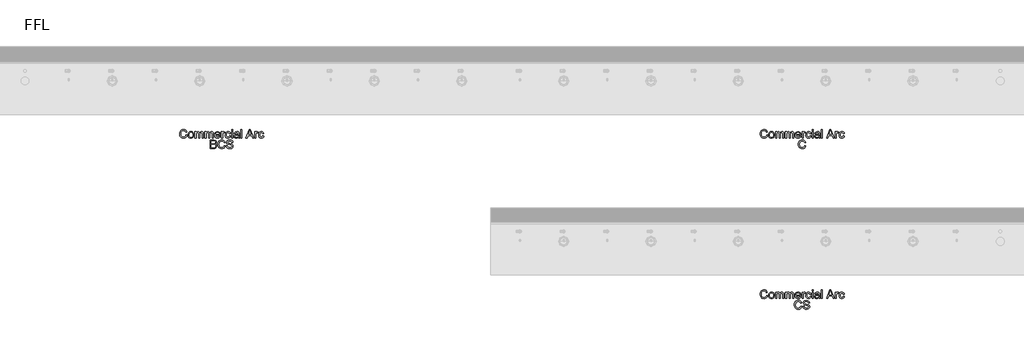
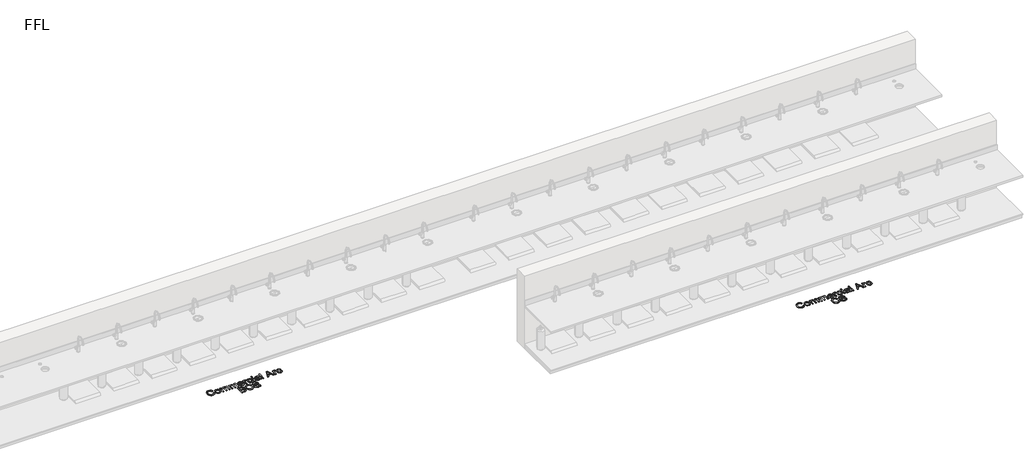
# One storey, part 7 of 10: 3 proxies.
"""IFC4 building model written with IfcOpenShell, lengths in millimetres."""

import ifcopenshell
import ifcopenshell.guid

model = None  # the IFC model being written
_history = None  # IfcOwnerHistory: only IFC2X3 demands one
_inside = {}  # id of a spatial element -> (the spatial element, [elements in it])
_under = {}  # id of a project, library or spatial element -> (it, [spatial elements below it])
_declared = {}  # id of a project -> (the project, [libraries it declares])
_typed = {}  # id of a type object -> (the type object, [elements of that type])
_made_of = {}  # id of a material, layer set ... -> (it, [elements and type objects made of it])


def new_model(schema):
    """Start an empty IFC model of exactly this schema.

    Asked for "IFC4X3", IfcOpenShell would pick the latest addendum, in which some entities
    have other attributes; the version numbers below select the first issue.
    IFC2X3 requires an IfcOwnerHistory on every rooted entity: one is made here for all.
    """
    global model, _history
    if schema == "IFC4X3":
        model = ifcopenshell.file(schema_version=(4, 3, 0, 0))
    else:
        model = ifcopenshell.file(schema=schema)
    _inside.clear()
    _under.clear()
    _declared.clear()
    _typed.clear()
    _made_of.clear()
    _history = None
    if model.schema == "IFC2X3":
        org = make("IfcOrganization", Name="unknown")
        user = make(
            "IfcPersonAndOrganization",
            ThePerson=make("IfcPerson", FamilyName="unknown"),
            TheOrganization=org,
        )
        app = make(
            "IfcApplication",
            ApplicationDeveloper=org,
            Version="unknown",
            ApplicationFullName="unknown",
            ApplicationIdentifier="unknown",
        )
        _history = make(
            "IfcOwnerHistory",
            OwningUser=user,
            OwningApplication=app,
            ChangeAction="ADDED",
            CreationDate=0,
        )
    return model


def make(cls, **values):
    """One entity of the class cls with the attributes given. An attribute that is None is left unset."""
    return model.create_entity(
        cls, **{name: value for name, value in values.items() if value is not None}
    )


def rooted(cls, **values):
    """An entity with a GlobalId (a new one), such as an element, a storey or a relation."""
    return make(cls, GlobalId=ifcopenshell.guid.new(), OwnerHistory=_history, **values)


def si_unit(unit_type, name, prefix=None):
    """IfcSIUnit, for example si_unit("LENGTHUNIT", "METRE", prefix="MILLI")."""
    return make("IfcSIUnit", UnitType=unit_type, Prefix=prefix, Name=name)


def assignment(units):
    """IfcUnitAssignment: the units of a project."""
    return None if units is None else make("IfcUnitAssignment", Units=units)


def point(xyz):
    """IfcCartesianPoint."""
    return None if xyz is None else make("IfcCartesianPoint", Coordinates=xyz)


def direction(xyz):
    """IfcDirection."""
    return None if xyz is None else make("IfcDirection", DirectionRatios=xyz)


def frame(location, z_axis=None, x_axis=None):
    """IfcAxis2Placement3D, a coordinate frame: its origin and axes. An axis left out is left unset."""
    return make(
        "IfcAxis2Placement3D",
        Location=point(location),
        Axis=direction(z_axis),
        RefDirection=direction(x_axis),
    )


def origin():
    """The frame at (0, 0, 0) with its axes left unset."""
    return frame((0.0, 0.0, 0.0))


def origin_with_axes():
    """The frame at (0, 0, 0) with the z axis (0, 0, 1) and the x axis (1, 0, 0) written out."""
    return frame((0.0, 0.0, 0.0), z_axis=(0.0, 0.0, 1.0), x_axis=(1.0, 0.0, 0.0))


def place(relative_to, where):
    """IfcLocalPlacement: puts the frame where relative to a parent placement (None: the world)."""
    return make(
        "IfcLocalPlacement", PlacementRelTo=relative_to, RelativePlacement=where
    )


def context(
    kind, dimensions, precision=None, world=None, true_north=None, identifier=None
):
    """IfcGeometricRepresentationContext, for example the 3D "Model" context."""
    return make(
        "IfcGeometricRepresentationContext",
        ContextIdentifier=identifier,
        ContextType=kind,
        CoordinateSpaceDimension=dimensions,
        Precision=precision,
        WorldCoordinateSystem=world,
        TrueNorth=true_north,
    )


def project(units=None, contexts=None):
    """IfcProject with its units and contexts."""
    return rooted(
        "IfcProject",
        Name="project",
        RepresentationContexts=contexts,
        UnitsInContext=assignment(units),
    )


def spatial(cls, under=None, at=None, **own):
    """A site, building, storey or space (cls), placed at a placement, below another one or the project."""
    s = rooted(cls, ObjectPlacement=at, **own)
    if under is not None:
        _under.setdefault(under.id(), (under, []))[1].append(s)
    return s


def polyline(points):
    """IfcPolyline through the points."""
    return make("IfcPolyline", Points=[point(p) for p in points])


def outline(outer, holes=None, kind="AREA"):
    """IfcArbitraryClosedProfileDef: a profile drawn as a closed curve; with holes, ...WithVoids."""
    if holes is None:
        return make("IfcArbitraryClosedProfileDef", ProfileType=kind, OuterCurve=outer)
    return make(
        "IfcArbitraryProfileDefWithVoids",
        ProfileType=kind,
        OuterCurve=outer,
        InnerCurves=holes,
    )


def extrude(swept, where, along, depth):
    """IfcExtrudedAreaSolid: the profile swept, set in the frame where, extruded along a direction by depth."""
    return make(
        "IfcExtrudedAreaSolid",
        SweptArea=swept,
        Position=where,
        ExtrudedDirection=direction(along),
        Depth=depth,
    )


def shape(context_of_items, identifier, shape_type, items):
    """IfcShapeRepresentation: the items that make up one representation, for example the "Body"."""
    return make(
        "IfcShapeRepresentation",
        ContextOfItems=context_of_items,
        RepresentationIdentifier=identifier,
        RepresentationType=shape_type,
        Items=items,
    )


def made_of(thing, what):
    """Note that an element or type object is made of a material, layer set ...; save() writes the relation."""
    if what is not None:
        _made_of.setdefault(what.id(), (what, []))[1].append(thing)
    return thing


def element(
    cls,
    number,
    at=None,
    inside=None,
    cuts=None,
    type_object=None,
    material=None,
    context=None,
    identifier="Body",
    shape_type=None,
    held_by="IfcProductDefinitionShape",
    body=None,
    shapes=None,
    **own,
):
    """One element of the class cls, such as IfcWall. Its Tag is "e" and its number.

    at: its placement. inside: the storey or other place that contains it. cuts: it is an
    opening in that element (IfcRelVoidsElement). A single representation is given by context,
    identifier, shape_type and body (its items); several are given by shapes. held_by: the class
    of the entity that holds the representations. save() writes the other relations.
    """
    e = rooted(cls, Tag="e%d" % number, ObjectPlacement=at, **own)
    if body is not None:
        shapes = [shape(context, identifier, shape_type, body)]
    if shapes is not None:
        e.Representation = make(held_by, Representations=shapes)
    if inside is not None:
        _inside.setdefault(inside.id(), (inside, []))[1].append(e)
    if cuts is not None:
        rooted(
            "IfcRelVoidsElement", RelatingBuildingElement=cuts, RelatedOpeningElement=e
        )
    if type_object is not None:
        _typed.setdefault(type_object.id(), (type_object, []))[1].append(e)
    return made_of(e, material)


def aggregate(whole, parts):
    """IfcRelAggregates: a whole, such as a stair, and the parts it consists of."""
    return rooted("IfcRelAggregates", RelatingObject=whole, RelatedObjects=parts)


def save(model, path):
    """Write the relations noted so far, then the file.

    IfcRelAggregates (storeys below a building ...), IfcRelContainedInSpatialStructure (elements
    in a storey), IfcRelDefinesByType, IfcRelAssociatesMaterial and IfcRelDeclares: one each for
    every whole, place, type object, material and project.
    """
    for whole, parts in _under.values():
        aggregate(whole, parts)
    for where, things in _inside.values():
        rooted(
            "IfcRelContainedInSpatialStructure",
            RelatedElements=things,
            RelatingStructure=where,
        )
    for kind, things in _typed.values():
        rooted("IfcRelDefinesByType", RelatedObjects=things, RelatingType=kind)
    for what, things in _made_of.values():
        rooted("IfcRelAssociatesMaterial", RelatedObjects=things, RelatingMaterial=what)
    for by, libraries in _declared.values():
        rooted("IfcRelDeclares", RelatingContext=by, RelatedDefinitions=libraries)
    model.write(path)


model = new_model("IFC4")

# Units and contexts
model_context = context("Model", 3, world=origin())
ifc_project = project(units=[si_unit("LENGTHUNIT", "METRE", prefix="MILLI")], contexts=[model_context])

# Site, building, storey
site = spatial("IfcSite", under=ifc_project)
building = spatial("IfcBuilding", under=site)
storey = spatial("IfcBuildingStorey", under=building, Name="FFL", Elevation=0.0)

# Proxies
placement = place(None, origin())
element("IfcBuildingElementProxy", 1, Name="150mm Arial", ObjectType="150mm Arial", at=placement, inside=storey, context=model_context, shape_type="SweptSolid", body=[
    extrude(outline(polyline([(-2955.1199083, -1683.6981691), (-2936.6583698, -1688.4577845), (-2945.1769996, -1709.9707052), (-2958.545389, -1725.6873518), (-2976.1054852, -1735.301234), (-2997.1992352, -1738.5058614), (-3018.6129972, -1736.0809816), (-3035.6187063, -1728.8063422), (-3048.6535621, -1716.934347), (-3058.154764, -1700.7173999), (-3063.9555453, -1681.6518951), (-3065.889139, -1661.2342268), (-3063.7031414, -1639.6987701), (-3057.1451486, -1621.1020153), (-3046.5577087, -1606.0344071), (-3032.2833698, -1595.0863903), (-3015.3542833, -1588.4202244), (-2996.8026006, -1586.1981691), (-2976.5607135, -1589.0737701), (-2959.8254371, -1597.700573), (-2947.1196078, -1611.5467268), (-2938.9660621, -1630.0803807), (-2957.4276006, -1634.4794191), (-2963.8278409, -1621.0163783), (-2972.5718313, -1611.7811018), (-2983.7677448, -1606.4400561), (-2997.5237544, -1604.6597076), (-3013.3801246, -1606.6338662), (-3026.4059659, -1612.5563422), (-3036.2902809, -1621.8051403), (-3042.7220717, -1633.7582653), (-3047.4276006, -1661.1981691), (-3041.8566871, -1693.0010537), (-3034.7352929, -1704.8775561), (-3024.5129371, -1713.3195633), (-3012.2578289, -1718.3631331), (-2999.0381775, -1720.044323), (-2983.6280212, -1717.7546595), (-2970.7869756, -1710.8856691), (-2961.0919635, -1699.5094672), (-2955.1199083, -1683.6981691)])), origin_with_axes(), (0.0, 0.0, 1.0), 5.0),
    extrude(outline(polyline([(-2918.1968313, -1681.9673999), (-2914.2034419, -1655.8165585), (-2902.2232736, -1637.4361499), (-2887.4215909, -1628.4307412), (-2869.6992352, -1625.4289383), (-2850.3047039, -1629.0842869), (-2834.8134179, -1640.0503326), (-2824.6586703, -1657.4616908), (-2821.2737544, -1680.4529768), (-2822.7701486, -1699.1038182), (-2827.2593313, -1713.3015345), (-2834.6105934, -1723.9340465), (-2844.6932256, -1731.8892749), (-2856.6688866, -1736.8517148), (-2869.6992352, -1738.5058614), (-2889.3281414, -1734.8640345), (-2904.8013986, -1723.9385537), (-2914.8479732, -1706.1621114), (-2918.1968313, -1681.9673999)]), holes=[polyline([(-2899.7352929, -1681.9313422), (-2897.5988746, -1698.6395754), (-2891.1896198, -1710.543121), (-2881.5441871, -1717.6690225), (-2869.6992352, -1720.044323), (-2857.9083698, -1717.6555008), (-2848.2809659, -1710.4890345), (-2841.8717111, -1698.4277364), (-2839.7352929, -1681.3544191), (-2841.8852328, -1665.1329648), (-2848.3350525, -1653.3916787), (-2857.975978, -1646.2657773), (-2869.6992352, -1643.8904768), (-2881.5441871, -1646.2567629), (-2891.1896198, -1653.355621), (-2897.5988746, -1665.2321234), (-2899.7352929, -1681.9313422)])]), origin_with_axes(), (0.0, 0.0, 1.0), 5.0),
    extrude(outline(polyline([(-2800.5045236, -1736.1981691), (-2800.5045236, -1627.7366307), (-2782.0429852, -1627.7366307), (-2782.0429852, -1645.5851883), (-2769.3506775, -1630.9637941), (-2751.2857736, -1625.4289383), (-2741.0183458, -1626.8396956), (-2732.7881775, -1631.0719672), (-2722.6199083, -1646.8832653), (-2708.2148602, -1630.7925201), (-2690.0237544, -1625.4289383), (-2676.1460501, -1627.6600081), (-2665.8831294, -1634.3532172), (-2659.5414828, -1645.6888542), (-2657.4276006, -1661.8472076), (-2657.4276006, -1736.1981691), (-2675.889139, -1736.1981691), (-2675.889139, -1669.7798999), (-2677.6018794, -1654.3652364), (-2683.8038025, -1646.7750922), (-2694.3506775, -1643.8904768), (-2704.3521799, -1645.7384335), (-2712.5057256, -1651.2823037), (-2717.927901, -1660.9006932), (-2719.7352929, -1674.9722076), (-2719.7352929, -1736.1981691), (-2738.1968313, -1736.1981691), (-2738.1968313, -1667.7246114), (-2742.4696679, -1649.839996), (-2748.1081895, -1645.3778566), (-2756.4780813, -1643.8904768), (-2770.1439467, -1647.856823), (-2779.2304852, -1659.4673999), (-2782.0429852, -1681.4986499), (-2782.0429852, -1736.1981691), (-2800.5045236, -1736.1981691)])), origin_with_axes(), (0.0, 0.0, 1.0), 5.0),
    extrude(outline(polyline([(-2629.7352929, -1736.1981691), (-2629.7352929, -1627.7366307), (-2611.2737544, -1627.7366307), (-2611.2737544, -1645.5851883), (-2598.5814467, -1630.9637941), (-2580.5165429, -1625.4289383), (-2570.249115, -1626.8396956), (-2562.0189467, -1631.0719672), (-2551.8506775, -1646.8832653), (-2537.4456294, -1630.7925201), (-2519.2545236, -1625.4289383), (-2505.3768193, -1627.6600081), (-2495.1138986, -1634.3532172), (-2488.772252, -1645.6888542), (-2486.6583698, -1661.8472076), (-2486.6583698, -1736.1981691), (-2505.1199083, -1736.1981691), (-2505.1199083, -1669.7798999), (-2506.8326486, -1654.3652364), (-2513.0345717, -1646.7750922), (-2523.5814467, -1643.8904768), (-2533.5829491, -1645.7384335), (-2541.7364948, -1651.2823037), (-2547.1586703, -1660.9006932), (-2548.9660621, -1674.9722076), (-2548.9660621, -1736.1981691), (-2567.4276006, -1736.1981691), (-2567.4276006, -1667.7246114), (-2571.7004371, -1649.839996), (-2577.3389587, -1645.3778566), (-2585.7088506, -1643.8904768), (-2599.3747159, -1647.856823), (-2608.4612544, -1659.4673999), (-2611.2737544, -1681.4986499), (-2611.2737544, -1736.1981691), (-2629.7352929, -1736.1981691)])), origin_with_axes(), (0.0, 0.0, 1.0), 5.0),
    extrude(outline(polyline([(-2383.0285621, -1703.8904768), (-2364.9276006, -1706.1981691), (-2371.4495357, -1719.8369912), (-2381.8566871, -1730.0323037), (-2395.9146799, -1736.387472), (-2413.389139, -1738.5058614), (-2435.0507977, -1734.8505129), (-2451.7184659, -1723.8844672), (-2462.3464708, -1706.3198638), (-2465.889139, -1682.8688422), (-2462.3104131, -1658.6290585), (-2451.5742352, -1640.5010537), (-2435.1319275, -1629.1969672), (-2414.4348121, -1625.4289383), (-2394.382228, -1629.1879528), (-2378.3590909, -1640.464996), (-2367.8527809, -1658.5569432), (-2364.3506775, -1682.7606691), (-2364.4588506, -1687.7366307), (-2447.4276006, -1687.7366307), (-2444.2319876, -1701.5557412), (-2436.8086102, -1711.714996), (-2426.0949684, -1717.9619912), (-2413.0285621, -1720.044323), (-2394.9276006, -1716.1861499), (-2383.0285621, -1703.8904768)]), holes=[polyline([(-2447.4276006, -1669.2750922), (-2382.8122159, -1669.2750922), (-2385.3092111, -1659.5214864), (-2390.2040429, -1652.544323), (-2400.967264, -1646.0539383), (-2414.5069275, -1643.8904768), (-2426.9513385, -1645.6167388), (-2437.2413025, -1650.7955249), (-2444.3942472, -1658.8679408), (-2447.4276006, -1669.2750922)])]), origin_with_axes(), (0.0, 0.0, 1.0), 5.0),
    extrude(outline(polyline([(-2345.889139, -1736.1981691), (-2345.889139, -1627.7366307), (-2329.7352929, -1627.7366307), (-2329.7352929, -1643.7823037), (-2318.2689467, -1628.9986499), (-2306.7304852, -1625.4289383), (-2288.1968313, -1631.1260537), (-2294.3626967, -1647.6765345), (-2307.3434659, -1643.8904768), (-2317.7821679, -1647.5323037), (-2324.4348121, -1657.6284576), (-2327.4276006, -1679.1909576), (-2327.4276006, -1736.1981691), (-2345.889139, -1736.1981691)])), origin_with_axes(), (0.0, 0.0, 1.0), 5.0),
    extrude(outline(polyline([(-2207.4276006, -1696.9673999), (-2188.9660621, -1699.2750922), (-2194.1132977, -1715.6948638), (-2203.7857736, -1728.1032172), (-2217.0730333, -1735.9052004), (-2233.0646198, -1738.5058614), (-2252.7025405, -1734.8775561), (-2268.0586102, -1723.9926403), (-2277.9699684, -1706.3288783), (-2281.2737544, -1682.3640345), (-2275.6307256, -1651.6969672), (-2268.5093313, -1640.1990706), (-2258.4312063, -1631.9914383), (-2246.3744155, -1627.0695633), (-2233.3170236, -1625.4289383), (-2217.7175645, -1627.6825441), (-2205.2461102, -1634.4433614), (-2196.2992953, -1645.3508133), (-2191.2737544, -1660.044323), (-2209.7352929, -1662.3520153), (-2218.2989948, -1648.5238903), (-2233.1727929, -1643.8904768), (-2245.1033818, -1646.1711258), (-2254.5730333, -1653.013073), (-2260.7524203, -1664.7859095), (-2262.8122159, -1681.8592268), (-2260.7974924, -1699.1624119), (-2254.7533217, -1710.9758133), (-2245.4549443, -1717.7771956), (-2233.6776006, -1720.044323), (-2224.1178049, -1718.6290585), (-2216.279764, -1714.3832653), (-2210.5781414, -1707.1987701), (-2207.4276006, -1696.9673999)])), origin_with_axes(), (0.0, 0.0, 1.0), 5.0),
    extrude(outline(polyline([(-2172.8122159, -1606.9673999), (-2172.8122159, -1588.5058614), (-2154.3506775, -1588.5058614), (-2154.3506775, -1606.9673999), (-2172.8122159, -1606.9673999)])), origin_with_axes(), (0.0, 0.0, 1.0), 5.0),
    extrude(outline(polyline([(-2172.8122159, -1736.1981691), (-2172.8122159, -1627.7366307), (-2154.3506775, -1627.7366307), (-2154.3506775, -1736.1981691), (-2172.8122159, -1736.1981691)])), origin_with_axes(), (0.0, 0.0, 1.0), 5.0),
    extrude(outline(polyline([(-2057.4276006, -1722.3520153), (-2075.3302448, -1734.8640345), (-2095.107889, -1738.5058614), (-2110.5360741, -1736.3153566), (-2121.9167833, -1729.7438422), (-2128.9345116, -1719.7648758), (-2131.2737544, -1707.3520153), (-2127.7401006, -1692.7486499), (-2118.4552448, -1682.1476883), (-2105.5285621, -1676.089996), (-2089.5550044, -1673.3135537), (-2057.5357736, -1666.9673999), (-2057.4276006, -1662.856823), (-2058.6986342, -1654.6176403), (-2062.5117352, -1649.2270153), (-2071.0393794, -1645.2246114), (-2082.920389, -1643.8904768), (-2101.5982736, -1647.4421595), (-2110.5045236, -1660.044323), (-2128.9660621, -1657.7366307), (-2120.9792833, -1639.7077845), (-2104.8975525, -1629.1428807), (-2080.5405813, -1625.4289383), (-2058.1667833, -1628.7101883), (-2045.5285621, -1636.949371), (-2039.8675044, -1649.4794191), (-2038.9660621, -1665.6332653), (-2038.9660621, -1688.6020153), (-2038.0285621, -1720.6753326), (-2034.3506775, -1736.1981691), (-2052.8122159, -1736.1981691), (-2057.4276006, -1722.3520153)]), holes=[polyline([(-2057.4276006, -1685.4289383), (-2087.2112544, -1691.089996), (-2103.0946679, -1694.0827845), (-2110.2881775, -1698.950573), (-2112.8122159, -1706.0539383), (-2107.3134179, -1716.0419191), (-2091.1776006, -1720.044323), (-2072.4997159, -1715.6272557), (-2060.4564467, -1704.9361499), (-2057.5357736, -1690.6573037), (-2057.4276006, -1685.4289383)])]), origin_with_axes(), (0.0, 0.0, 1.0), 5.0),
    extrude(outline(polyline([(-2013.5814467, -1736.1981691), (-2013.5814467, -1588.5058614), (-1995.1199083, -1588.5058614), (-1995.1199083, -1736.1981691), (-2013.5814467, -1736.1981691)])), origin_with_axes(), (0.0, 0.0, 1.0), 5.0),
    extrude(outline(polyline([(-1924.6271198, -1736.1981691), (-1865.6727929, -1588.5058614), (-1849.951639, -1588.5058614), (-1790.9973121, -1736.1981691), (-1810.5045236, -1736.1981691), (-1827.4155813, -1690.044323), (-1888.2449083, -1690.044323), (-1905.1199083, -1736.1981691), (-1924.6271198, -1736.1981691)]), holes=[polyline([(-1881.4660621, -1671.5827845), (-1834.1583698, -1671.5827845), (-1847.4636583, -1635.2726883), (-1857.8122159, -1606.9673999), (-1867.0069275, -1632.0996114), (-1881.4660621, -1671.5827845)])]), origin_with_axes(), (0.0, 0.0, 1.0), 5.0),
    extrude(outline(polyline([(-1773.5814467, -1736.1981691), (-1773.5814467, -1627.7366307), (-1757.4276006, -1627.7366307), (-1757.4276006, -1643.7823037), (-1745.9612544, -1628.9986499), (-1734.4227929, -1625.4289383), (-1715.889139, -1631.1260537), (-1722.0550044, -1647.6765345), (-1735.0357736, -1643.8904768), (-1745.4744756, -1647.5323037), (-1752.1271198, -1657.6284576), (-1755.1199083, -1679.1909576), (-1755.1199083, -1736.1981691), (-1773.5814467, -1736.1981691)])), origin_with_axes(), (0.0, 0.0, 1.0), 5.0),
    extrude(outline(polyline([(-1635.1199083, -1696.9673999), (-1616.6583698, -1699.2750922), (-1621.8056054, -1715.6948638), (-1631.4780813, -1728.1032172), (-1644.7653409, -1735.9052004), (-1660.7569275, -1738.5058614), (-1680.3948482, -1734.8775561), (-1695.7509179, -1723.9926403), (-1705.662276, -1706.3288783), (-1708.9660621, -1682.3640345), (-1703.3230333, -1651.6969672), (-1696.201639, -1640.1990706), (-1686.123514, -1631.9914383), (-1674.0667232, -1627.0695633), (-1661.0093313, -1625.4289383), (-1645.4098722, -1627.6825441), (-1632.9384179, -1634.4433614), (-1623.991603, -1645.3508133), (-1618.9660621, -1660.044323), (-1637.4276006, -1662.3520153), (-1645.9913025, -1648.5238903), (-1660.8651006, -1643.8904768), (-1672.7956895, -1646.1711258), (-1682.2653409, -1653.013073), (-1688.444728, -1664.7859095), (-1690.5045236, -1681.8592268), (-1688.4898001, -1699.1624119), (-1682.4456294, -1710.9758133), (-1673.147252, -1717.7771956), (-1661.3699083, -1720.044323), (-1651.8101126, -1718.6290585), (-1643.9720717, -1714.3832653), (-1638.2704491, -1707.1987701), (-1635.1199083, -1696.9673999)])), origin_with_axes(), (0.0, 0.0, 1.0), 5.0),
    extrude(outline(polyline([(-2538.5814467, -1918.5058614), (-2538.5814467, -1770.8135537), (-2482.2232736, -1770.8135537), (-2454.6211102, -1775.1585057), (-2445.3452688, -1780.6708254), (-2438.3230333, -1788.5178807), (-2432.4276006, -1807.4121114), (-2437.3855333, -1824.6657172), (-2452.3675044, -1837.7366307), (-2441.9062664, -1843.199371), (-2434.1763986, -1851.5106691), (-2429.4032616, -1862.1206451), (-2427.8122159, -1874.4794191), (-2432.1571679, -1894.3291787), (-2442.920389, -1908.4637941), (-2458.9840909, -1915.9637941), (-2482.6559659, -1918.5058614), (-2538.5814467, -1918.5058614)]), holes=[polyline([(-2520.1199083, -1900.044323), (-2482.2593313, -1900.044323), (-2468.5574083, -1899.3231691), (-2456.9648602, -1895.3027364), (-2449.2845717, -1887.0996114), (-2446.2737544, -1874.6597076), (-2449.8074083, -1860.308746), (-2461.2557256, -1851.7450441), (-2484.0622159, -1849.2750922), (-2520.1199083, -1849.2750922), (-2520.1199083, -1900.044323)]), polyline([(-2520.1199083, -1830.8135537), (-2486.4059659, -1830.8135537), (-2466.7184659, -1829.2270153), (-2454.873514, -1822.3940826), (-2450.889139, -1810.3688422), (-2454.6030813, -1798.325573), (-2465.2401006, -1791.2041787), (-2488.9660621, -1789.2750922), (-2520.1199083, -1789.2750922), (-2520.1199083, -1830.8135537)])]), origin_with_axes(), (0.0, 0.0, 1.0), 5.0),
    extrude(outline(polyline([(-2298.5814467, -1866.0058614), (-2280.1199083, -1870.7654768), (-2288.6385381, -1892.2783975), (-2302.0069275, -1907.9950441), (-2319.5670236, -1917.6089263), (-2340.6607736, -1920.8135537), (-2362.0745357, -1918.3886739), (-2379.0802448, -1911.1140345), (-2392.1151006, -1899.2420393), (-2401.6163025, -1883.0250922), (-2407.4170837, -1863.9595874), (-2409.3506775, -1843.5419191), (-2407.1646799, -1822.0064624), (-2400.6066871, -1803.4097076), (-2390.0192472, -1788.3420994), (-2375.7449083, -1777.3940826), (-2358.8158217, -1770.7279167), (-2340.264139, -1768.5058614), (-2320.022252, -1771.3814624), (-2303.2869756, -1780.0082653), (-2290.5811462, -1793.8544191), (-2282.4276006, -1812.388073), (-2300.889139, -1816.7871114), (-2307.2893794, -1803.3240706), (-2316.0333698, -1794.0887941), (-2327.2292833, -1788.7477484), (-2340.9852929, -1786.9673999), (-2356.8416631, -1788.9415585), (-2369.8675044, -1794.8640345), (-2379.7518193, -1804.1128326), (-2386.1836102, -1816.0659576), (-2390.889139, -1843.5058614), (-2385.3182256, -1875.308746), (-2378.1968313, -1887.1852484), (-2367.9744756, -1895.6272557), (-2355.7193674, -1900.6708254), (-2342.4997159, -1902.3520153), (-2327.0895597, -1900.0623518), (-2314.248514, -1893.1933614), (-2304.553502, -1881.8171595), (-2298.5814467, -1866.0058614)])), origin_with_axes(), (0.0, 0.0, 1.0), 5.0),
    extrude(outline(polyline([(-2261.6583698, -1867.7366307), (-2243.1968313, -1867.7366307), (-2237.2473121, -1886.216198), (-2222.7160621, -1897.8988903), (-2200.576639, -1902.3520153), (-2181.2857736, -1898.980621), (-2168.8278409, -1889.7137941), (-2164.7352929, -1877.3279768), (-2167.8001967, -1865.8075441), (-2180.3482736, -1857.4241307), (-2207.2292833, -1850.3748518), (-2236.1655813, -1841.2702845), (-2251.8687063, -1827.5323037), (-2257.0429852, -1809.1789383), (-2255.4429251, -1798.3661379), (-2250.6427448, -1788.2835057), (-2242.7686462, -1779.7378326), (-2231.9468313, -1773.5359095), (-2204.5790429, -1768.5058614), (-2175.3723121, -1773.7702845), (-2164.1763986, -1780.2696835), (-2155.9011583, -1789.2390345), (-2150.6637784, -1800.1194432), (-2148.5814467, -1812.3520153), (-2167.0429852, -1812.3520153), (-2170.4324083, -1801.3363903), (-2177.4997159, -1793.3856691), (-2188.5423842, -1788.5719672), (-2203.857889, -1786.9673999), (-2219.5339708, -1788.5539383), (-2230.2881775, -1793.3135537), (-2236.5081294, -1800.3177605), (-2238.5814467, -1808.638073), (-2237.1120958, -1815.7324239), (-2232.7040429, -1821.4385537), (-2202.5598121, -1831.7510537), (-2169.8915429, -1841.0178807), (-2159.3672039, -1847.715597), (-2152.0249563, -1855.981823), (-2146.2737544, -1876.8592268), (-2147.927901, -1888.2399359), (-2152.8903409, -1898.9445633), (-2160.9582496, -1908.1573037), (-2171.9288025, -1915.0623518), (-2199.8554852, -1920.8135537), (-2217.9429251, -1919.263073), (-2232.8302448, -1914.6116307), (-2244.6887184, -1906.841198), (-2253.6896198, -1895.933746), (-2259.467865, -1882.6464864), (-2261.6583698, -1867.7366307)])), origin_with_axes(), (0.0, 0.0, 1.0), 5.0),
])
element("IfcBuildingElementProxy", 2, Name="150mm Arial", ObjectType="150mm Arial", at=placement, inside=storey, context=model_context, shape_type="SweptSolid", body=[
    extrude(outline(polyline([(7014.8800917, -1683.6981691), (7033.3416302, -1688.4577845), (7024.8230004, -1709.9707052), (7011.454611, -1725.6873518), (6993.8945148, -1735.301234), (6972.8007648, -1738.5058614), (6951.3870028, -1736.0809816), (6934.3812937, -1728.8063422), (6921.3464379, -1716.934347), (6911.845236, -1700.7173999), (6906.0444547, -1681.6518951), (6904.110861, -1661.2342268), (6906.2968586, -1639.6987701), (6912.8548514, -1621.1020153), (6923.4422913, -1606.0344071), (6937.7166302, -1595.0863903), (6954.6457167, -1588.4202244), (6973.1973994, -1586.1981691), (6993.4392865, -1589.0737701), (7010.1745629, -1597.700573), (7022.8803922, -1611.5467268), (7031.0339379, -1630.0803807), (7012.5723994, -1634.4794191), (7006.1721591, -1621.0163783), (6997.4281687, -1611.7811018), (6986.2322552, -1606.4400561), (6972.4762456, -1604.6597076), (6956.6198754, -1606.6338662), (6943.5940341, -1612.5563422), (6933.7097191, -1621.8051403), (6927.2779283, -1633.7582653), (6922.5723994, -1661.1981691), (6928.1433129, -1693.0010537), (6935.2647071, -1704.8775561), (6945.4870629, -1713.3195633), (6957.7421711, -1718.3631331), (6970.9618225, -1720.044323), (6986.3719788, -1717.7546595), (6999.2130244, -1710.8856691), (7008.9080365, -1699.5094672), (7014.8800917, -1683.6981691)])), origin_with_axes(), (0.0, 0.0, 1.0), 5.0),
    extrude(outline(polyline([(7051.8031687, -1681.9673999), (7055.7965581, -1655.8165585), (7067.7767264, -1637.4361499), (7082.5784091, -1628.4307412), (7100.3007648, -1625.4289383), (7119.6952961, -1629.0842869), (7135.1865821, -1640.0503326), (7145.3413297, -1657.4616908), (7148.7262456, -1680.4529768), (7147.2298514, -1699.1038182), (7142.7406687, -1713.3015345), (7135.3894066, -1723.9340465), (7125.3067744, -1731.8892749), (7113.3311134, -1736.8517148), (7100.3007648, -1738.5058614), (7080.6718586, -1734.8640345), (7065.1986014, -1723.9385537), (7055.1520268, -1706.1621114), (7051.8031687, -1681.9673999)]), holes=[polyline([(7070.2647071, -1681.9313422), (7072.4011254, -1698.6395754), (7078.8103802, -1710.543121), (7088.4558129, -1717.6690225), (7100.3007648, -1720.044323), (7112.0916302, -1717.6555008), (7121.7190341, -1710.4890345), (7128.1282889, -1698.4277364), (7130.2647071, -1681.3544191), (7128.1147672, -1665.1329648), (7121.6649475, -1653.3916787), (7112.024022, -1646.2657773), (7100.3007648, -1643.8904768), (7088.4558129, -1646.2567629), (7078.8103802, -1653.355621), (7072.4011254, -1665.2321234), (7070.2647071, -1681.9313422)])]), origin_with_axes(), (0.0, 0.0, 1.0), 5.0),
    extrude(outline(polyline([(7169.4954764, -1736.1981691), (7169.4954764, -1627.7366307), (7187.9570148, -1627.7366307), (7187.9570148, -1645.5851883), (7200.6493225, -1630.9637941), (7218.7142264, -1625.4289383), (7228.9816542, -1626.8396956), (7237.2118225, -1631.0719672), (7247.3800917, -1646.8832653), (7261.7851398, -1630.7925201), (7279.9762456, -1625.4289383), (7293.8539499, -1627.6600081), (7304.1168706, -1634.3532172), (7310.4585172, -1645.6888542), (7312.5723994, -1661.8472076), (7312.5723994, -1736.1981691), (7294.110861, -1736.1981691), (7294.110861, -1669.7798999), (7292.3981206, -1654.3652364), (7286.1961975, -1646.7750922), (7275.6493225, -1643.8904768), (7265.6478201, -1645.7384335), (7257.4942744, -1651.2823037), (7252.072099, -1660.9006932), (7250.2647071, -1674.9722076), (7250.2647071, -1736.1981691), (7231.8031687, -1736.1981691), (7231.8031687, -1667.7246114), (7227.5303321, -1649.839996), (7221.8918105, -1645.3778566), (7213.5219187, -1643.8904768), (7199.8560533, -1647.856823), (7190.7695148, -1659.4673999), (7187.9570148, -1681.4986499), (7187.9570148, -1736.1981691), (7169.4954764, -1736.1981691)])), origin_with_axes(), (0.0, 0.0, 1.0), 5.0),
    extrude(outline(polyline([(7340.2647071, -1736.1981691), (7340.2647071, -1627.7366307), (7358.7262456, -1627.7366307), (7358.7262456, -1645.5851883), (7371.4185533, -1630.9637941), (7389.4834571, -1625.4289383), (7399.750885, -1626.8396956), (7407.9810533, -1631.0719672), (7418.1493225, -1646.8832653), (7432.5543706, -1630.7925201), (7450.7454764, -1625.4289383), (7464.6231807, -1627.6600081), (7474.8861014, -1634.3532172), (7481.227748, -1645.6888542), (7483.3416302, -1661.8472076), (7483.3416302, -1736.1981691), (7464.8800917, -1736.1981691), (7464.8800917, -1669.7798999), (7463.1673514, -1654.3652364), (7456.9654283, -1646.7750922), (7446.4185533, -1643.8904768), (7436.4170509, -1645.7384335), (7428.2635052, -1651.2823037), (7422.8413297, -1660.9006932), (7421.0339379, -1674.9722076), (7421.0339379, -1736.1981691), (7402.5723994, -1736.1981691), (7402.5723994, -1667.7246114), (7398.2995629, -1649.839996), (7392.6610413, -1645.3778566), (7384.2911494, -1643.8904768), (7370.6252841, -1647.856823), (7361.5387456, -1659.4673999), (7358.7262456, -1681.4986499), (7358.7262456, -1736.1981691), (7340.2647071, -1736.1981691)])), origin_with_axes(), (0.0, 0.0, 1.0), 5.0),
    extrude(outline(polyline([(7586.9714379, -1703.8904768), (7605.0723994, -1706.1981691), (7598.5504643, -1719.8369912), (7588.1433129, -1730.0323037), (7574.0853201, -1736.387472), (7556.610861, -1738.5058614), (7534.9492023, -1734.8505129), (7518.2815341, -1723.8844672), (7507.6535292, -1706.3198638), (7504.110861, -1682.8688422), (7507.6895869, -1658.6290585), (7518.4257648, -1640.5010537), (7534.8680725, -1629.1969672), (7555.5651879, -1625.4289383), (7575.617772, -1629.1879528), (7591.6409091, -1640.464996), (7602.1472191, -1658.5569432), (7605.6493225, -1682.7606691), (7605.5411494, -1687.7366307), (7522.5723994, -1687.7366307), (7525.7680124, -1701.5557412), (7533.1913898, -1711.714996), (7543.9050316, -1717.9619912), (7556.9714379, -1720.044323), (7575.0723994, -1716.1861499), (7586.9714379, -1703.8904768)]), holes=[polyline([(7522.5723994, -1669.2750922), (7587.1877841, -1669.2750922), (7584.6907889, -1659.5214864), (7579.7959571, -1652.544323), (7569.032736, -1646.0539383), (7555.4930725, -1643.8904768), (7543.0486615, -1645.6167388), (7532.7586975, -1650.7955249), (7525.6057528, -1658.8679408), (7522.5723994, -1669.2750922)])]), origin_with_axes(), (0.0, 0.0, 1.0), 5.0),
    extrude(outline(polyline([(7624.110861, -1736.1981691), (7624.110861, -1627.7366307), (7640.2647071, -1627.7366307), (7640.2647071, -1643.7823037), (7651.7310533, -1628.9986499), (7663.2695148, -1625.4289383), (7681.8031687, -1631.1260537), (7675.6373033, -1647.6765345), (7662.6565341, -1643.8904768), (7652.2178321, -1647.5323037), (7645.5651879, -1657.6284576), (7642.5723994, -1679.1909576), (7642.5723994, -1736.1981691), (7624.110861, -1736.1981691)])), origin_with_axes(), (0.0, 0.0, 1.0), 5.0),
    extrude(outline(polyline([(7762.5723994, -1696.9673999), (7781.0339379, -1699.2750922), (7775.8867023, -1715.6948638), (7766.2142264, -1728.1032172), (7752.9269667, -1735.9052004), (7736.9353802, -1738.5058614), (7717.2974595, -1734.8775561), (7701.9413898, -1723.9926403), (7692.0300316, -1706.3288783), (7688.7262456, -1682.3640345), (7694.3692744, -1651.6969672), (7701.4906687, -1640.1990706), (7711.5687937, -1631.9914383), (7723.6255845, -1627.0695633), (7736.6829764, -1625.4289383), (7752.2824355, -1627.6825441), (7764.7538898, -1634.4433614), (7773.7007047, -1645.3508133), (7778.7262456, -1660.044323), (7760.2647071, -1662.3520153), (7751.7010052, -1648.5238903), (7736.8272071, -1643.8904768), (7724.8966182, -1646.1711258), (7715.4269667, -1653.013073), (7709.2475797, -1664.7859095), (7707.1877841, -1681.8592268), (7709.2025076, -1699.1624119), (7715.2466783, -1710.9758133), (7724.5450557, -1717.7771956), (7736.3223994, -1720.044323), (7745.8821951, -1718.6290585), (7753.720236, -1714.3832653), (7759.4218586, -1707.1987701), (7762.5723994, -1696.9673999)])), origin_with_axes(), (0.0, 0.0, 1.0), 5.0),
    extrude(outline(polyline([(7797.1877841, -1606.9673999), (7797.1877841, -1588.5058614), (7815.6493225, -1588.5058614), (7815.6493225, -1606.9673999), (7797.1877841, -1606.9673999)])), origin_with_axes(), (0.0, 0.0, 1.0), 5.0),
    extrude(outline(polyline([(7797.1877841, -1736.1981691), (7797.1877841, -1627.7366307), (7815.6493225, -1627.7366307), (7815.6493225, -1736.1981691), (7797.1877841, -1736.1981691)])), origin_with_axes(), (0.0, 0.0, 1.0), 5.0),
    extrude(outline(polyline([(7912.5723994, -1722.3520153), (7894.6697552, -1734.8640345), (7874.892111, -1738.5058614), (7859.4639259, -1736.3153566), (7848.0832167, -1729.7438422), (7841.0654884, -1719.7648758), (7838.7262456, -1707.3520153), (7842.2598994, -1692.7486499), (7851.5447552, -1682.1476883), (7864.4714379, -1676.089996), (7880.4449956, -1673.3135537), (7912.4642264, -1666.9673999), (7912.5723994, -1662.856823), (7911.3013658, -1654.6176403), (7907.4882648, -1649.2270153), (7898.9606206, -1645.2246114), (7887.079611, -1643.8904768), (7868.4017264, -1647.4421595), (7859.4954764, -1660.044323), (7841.0339379, -1657.7366307), (7849.0207167, -1639.7077845), (7865.1024475, -1629.1428807), (7889.4594187, -1625.4289383), (7911.8332167, -1628.7101883), (7924.4714379, -1636.949371), (7930.1324956, -1649.4794191), (7931.0339379, -1665.6332653), (7931.0339379, -1688.6020153), (7931.9714379, -1720.6753326), (7935.6493225, -1736.1981691), (7917.1877841, -1736.1981691), (7912.5723994, -1722.3520153)]), holes=[polyline([(7912.5723994, -1685.4289383), (7882.7887456, -1691.089996), (7866.9053321, -1694.0827845), (7859.7118225, -1698.950573), (7857.1877841, -1706.0539383), (7862.6865821, -1716.0419191), (7878.8223994, -1720.044323), (7897.5002841, -1715.6272557), (7909.5435533, -1704.9361499), (7912.4642264, -1690.6573037), (7912.5723994, -1685.4289383)])]), origin_with_axes(), (0.0, 0.0, 1.0), 5.0),
    extrude(outline(polyline([(7956.4185533, -1736.1981691), (7956.4185533, -1588.5058614), (7974.8800917, -1588.5058614), (7974.8800917, -1736.1981691), (7956.4185533, -1736.1981691)])), origin_with_axes(), (0.0, 0.0, 1.0), 5.0),
    extrude(outline(polyline([(8045.3728802, -1736.1981691), (8104.3272071, -1588.5058614), (8120.048361, -1588.5058614), (8179.0026879, -1736.1981691), (8159.4954764, -1736.1981691), (8142.5844187, -1690.044323), (8081.7550917, -1690.044323), (8064.8800917, -1736.1981691), (8045.3728802, -1736.1981691)]), holes=[polyline([(8088.5339379, -1671.5827845), (8135.8416302, -1671.5827845), (8122.5363417, -1635.2726883), (8112.1877841, -1606.9673999), (8102.9930725, -1632.0996114), (8088.5339379, -1671.5827845)])]), origin_with_axes(), (0.0, 0.0, 1.0), 5.0),
    extrude(outline(polyline([(8196.4185533, -1736.1981691), (8196.4185533, -1627.7366307), (8212.5723994, -1627.7366307), (8212.5723994, -1643.7823037), (8224.0387456, -1628.9986499), (8235.5772071, -1625.4289383), (8254.110861, -1631.1260537), (8247.9449956, -1647.6765345), (8234.9642264, -1643.8904768), (8224.5255244, -1647.5323037), (8217.8728802, -1657.6284576), (8214.8800917, -1679.1909576), (8214.8800917, -1736.1981691), (8196.4185533, -1736.1981691)])), origin_with_axes(), (0.0, 0.0, 1.0), 5.0),
    extrude(outline(polyline([(8334.8800917, -1696.9673999), (8353.3416302, -1699.2750922), (8348.1943946, -1715.6948638), (8338.5219187, -1728.1032172), (8325.2346591, -1735.9052004), (8309.2430725, -1738.5058614), (8289.6051518, -1734.8775561), (8274.2490821, -1723.9926403), (8264.337724, -1706.3288783), (8261.0339379, -1682.3640345), (8266.6769667, -1651.6969672), (8273.798361, -1640.1990706), (8283.876486, -1631.9914383), (8295.9332768, -1627.0695633), (8308.9906687, -1625.4289383), (8324.5901278, -1627.6825441), (8337.0615821, -1634.4433614), (8346.008397, -1645.3508133), (8351.0339379, -1660.044323), (8332.5723994, -1662.3520153), (8324.0086975, -1648.5238903), (8309.1348994, -1643.8904768), (8297.2043105, -1646.1711258), (8287.7346591, -1653.013073), (8281.555272, -1664.7859095), (8279.4954764, -1681.8592268), (8281.5101999, -1699.1624119), (8287.5543706, -1710.9758133), (8296.852748, -1717.7771956), (8308.6300917, -1720.044323), (8318.1898874, -1718.6290585), (8326.0279283, -1714.3832653), (8331.7295509, -1707.1987701), (8334.8800917, -1696.9673999)])), origin_with_axes(), (0.0, 0.0, 1.0), 5.0),
    extrude(outline(polyline([(7671.4185533, -1866.0058614), (7689.8800917, -1870.7654768), (7681.3614619, -1892.2783975), (7667.9930725, -1907.9950441), (7650.4329764, -1917.6089263), (7629.3392264, -1920.8135537), (7607.9254643, -1918.3886739), (7590.9197552, -1911.1140345), (7577.8848994, -1899.2420393), (7568.3836975, -1883.0250922), (7562.5829163, -1863.9595874), (7560.6493225, -1843.5419191), (7562.8353201, -1822.0064624), (7569.3933129, -1803.4097076), (7579.9807528, -1788.3420994), (7594.2550917, -1777.3940826), (7611.1841783, -1770.7279167), (7629.735861, -1768.5058614), (7649.977748, -1771.3814624), (7666.7130244, -1780.0082653), (7679.4188538, -1793.8544191), (7687.5723994, -1812.388073), (7669.110861, -1816.7871114), (7662.7106206, -1803.3240706), (7653.9666302, -1794.0887941), (7642.7707167, -1788.7477484), (7629.0147071, -1786.9673999), (7613.1583369, -1788.9415585), (7600.1324956, -1794.8640345), (7590.2481807, -1804.1128326), (7583.8163898, -1816.0659576), (7579.110861, -1843.5058614), (7584.6817744, -1875.308746), (7591.8031687, -1887.1852484), (7602.0255244, -1895.6272557), (7614.2806326, -1900.6708254), (7627.5002841, -1902.3520153), (7642.9104403, -1900.0623518), (7655.751486, -1893.1933614), (7665.446498, -1881.8171595), (7671.4185533, -1866.0058614)])), origin_with_axes(), (0.0, 0.0, 1.0), 5.0),
])
element("IfcBuildingElementProxy", 3, Name="150mm Arial", ObjectType="150mm Arial", at=placement, inside=storey, context=model_context, shape_type="SweptSolid", body=[
    extrude(outline(polyline([(7014.8800917, -4443.6981691), (7033.3416302, -4448.4577845), (7024.8230004, -4469.9707052), (7011.454611, -4485.6873518), (6993.8945148, -4495.301234), (6972.8007648, -4498.5058614), (6951.3870028, -4496.0809816), (6934.3812937, -4488.8063422), (6921.3464379, -4476.934347), (6911.845236, -4460.7173999), (6906.0444547, -4441.6518951), (6904.110861, -4421.2342268), (6906.2968586, -4399.6987701), (6912.8548514, -4381.1020153), (6923.4422913, -4366.0344071), (6937.7166302, -4355.0863903), (6954.6457167, -4348.4202244), (6973.1973994, -4346.1981691), (6993.4392865, -4349.0737701), (7010.1745629, -4357.700573), (7022.8803922, -4371.5467268), (7031.0339379, -4390.0803807), (7012.5723994, -4394.4794191), (7006.1721591, -4381.0163783), (6997.4281687, -4371.7811018), (6986.2322552, -4366.4400561), (6972.4762456, -4364.6597076), (6956.6198754, -4366.6338662), (6943.5940341, -4372.5563422), (6933.7097191, -4381.8051403), (6927.2779283, -4393.7582653), (6922.5723994, -4421.1981691), (6928.1433129, -4453.0010537), (6935.2647071, -4464.8775561), (6945.4870629, -4473.3195633), (6957.7421711, -4478.3631331), (6970.9618225, -4480.044323), (6986.3719788, -4477.7546595), (6999.2130244, -4470.8856691), (7008.9080365, -4459.5094672), (7014.8800917, -4443.6981691)])), origin_with_axes(), (0.0, 0.0, 1.0), 5.0),
    extrude(outline(polyline([(7051.8031687, -4441.9673999), (7055.7965581, -4415.8165585), (7067.7767264, -4397.4361499), (7082.5784091, -4388.4307412), (7100.3007648, -4385.4289383), (7119.6952961, -4389.0842869), (7135.1865821, -4400.0503326), (7145.3413297, -4417.4616908), (7148.7262456, -4440.4529768), (7147.2298514, -4459.1038182), (7142.7406687, -4473.3015345), (7135.3894066, -4483.9340465), (7125.3067744, -4491.8892749), (7113.3311134, -4496.8517148), (7100.3007648, -4498.5058614), (7080.6718586, -4494.8640345), (7065.1986014, -4483.9385537), (7055.1520268, -4466.1621114), (7051.8031687, -4441.9673999)]), holes=[polyline([(7070.2647071, -4441.9313422), (7072.4011254, -4458.6395754), (7078.8103802, -4470.543121), (7088.4558129, -4477.6690225), (7100.3007648, -4480.044323), (7112.0916302, -4477.6555008), (7121.7190341, -4470.4890345), (7128.1282889, -4458.4277364), (7130.2647071, -4441.3544191), (7128.1147672, -4425.1329648), (7121.6649475, -4413.3916787), (7112.024022, -4406.2657773), (7100.3007648, -4403.8904768), (7088.4558129, -4406.2567629), (7078.8103802, -4413.355621), (7072.4011254, -4425.2321234), (7070.2647071, -4441.9313422)])]), origin_with_axes(), (0.0, 0.0, 1.0), 5.0),
    extrude(outline(polyline([(7169.4954764, -4496.1981691), (7169.4954764, -4387.7366307), (7187.9570148, -4387.7366307), (7187.9570148, -4405.5851883), (7200.6493225, -4390.9637941), (7218.7142264, -4385.4289383), (7228.9816542, -4386.8396956), (7237.2118225, -4391.0719672), (7247.3800917, -4406.8832653), (7261.7851398, -4390.7925201), (7279.9762456, -4385.4289383), (7293.8539499, -4387.6600081), (7304.1168706, -4394.3532172), (7310.4585172, -4405.6888542), (7312.5723994, -4421.8472076), (7312.5723994, -4496.1981691), (7294.110861, -4496.1981691), (7294.110861, -4429.7798999), (7292.3981206, -4414.3652364), (7286.1961975, -4406.7750922), (7275.6493225, -4403.8904768), (7265.6478201, -4405.7384335), (7257.4942744, -4411.2823037), (7252.072099, -4420.9006932), (7250.2647071, -4434.9722076), (7250.2647071, -4496.1981691), (7231.8031687, -4496.1981691), (7231.8031687, -4427.7246114), (7227.5303321, -4409.839996), (7221.8918105, -4405.3778566), (7213.5219187, -4403.8904768), (7199.8560533, -4407.856823), (7190.7695148, -4419.4673999), (7187.9570148, -4441.4986499), (7187.9570148, -4496.1981691), (7169.4954764, -4496.1981691)])), origin_with_axes(), (0.0, 0.0, 1.0), 5.0),
    extrude(outline(polyline([(7340.2647071, -4496.1981691), (7340.2647071, -4387.7366307), (7358.7262456, -4387.7366307), (7358.7262456, -4405.5851883), (7371.4185533, -4390.9637941), (7389.4834571, -4385.4289383), (7399.750885, -4386.8396956), (7407.9810533, -4391.0719672), (7418.1493225, -4406.8832653), (7432.5543706, -4390.7925201), (7450.7454764, -4385.4289383), (7464.6231807, -4387.6600081), (7474.8861014, -4394.3532172), (7481.227748, -4405.6888542), (7483.3416302, -4421.8472076), (7483.3416302, -4496.1981691), (7464.8800917, -4496.1981691), (7464.8800917, -4429.7798999), (7463.1673514, -4414.3652364), (7456.9654283, -4406.7750922), (7446.4185533, -4403.8904768), (7436.4170509, -4405.7384335), (7428.2635052, -4411.2823037), (7422.8413297, -4420.9006932), (7421.0339379, -4434.9722076), (7421.0339379, -4496.1981691), (7402.5723994, -4496.1981691), (7402.5723994, -4427.7246114), (7398.2995629, -4409.839996), (7392.6610413, -4405.3778566), (7384.2911494, -4403.8904768), (7370.6252841, -4407.856823), (7361.5387456, -4419.4673999), (7358.7262456, -4441.4986499), (7358.7262456, -4496.1981691), (7340.2647071, -4496.1981691)])), origin_with_axes(), (0.0, 0.0, 1.0), 5.0),
    extrude(outline(polyline([(7586.9714379, -4463.8904768), (7605.0723994, -4466.1981691), (7598.5504643, -4479.8369912), (7588.1433129, -4490.0323037), (7574.0853201, -4496.387472), (7556.610861, -4498.5058614), (7534.9492023, -4494.8505129), (7518.2815341, -4483.8844672), (7507.6535292, -4466.3198638), (7504.110861, -4442.8688422), (7507.6895869, -4418.6290585), (7518.4257648, -4400.5010537), (7534.8680725, -4389.1969672), (7555.5651879, -4385.4289383), (7575.617772, -4389.1879528), (7591.6409091, -4400.464996), (7602.1472191, -4418.5569432), (7605.6493225, -4442.7606691), (7605.5411494, -4447.7366307), (7522.5723994, -4447.7366307), (7525.7680124, -4461.5557412), (7533.1913898, -4471.714996), (7543.9050316, -4477.9619912), (7556.9714379, -4480.044323), (7575.0723994, -4476.1861499), (7586.9714379, -4463.8904768)]), holes=[polyline([(7522.5723994, -4429.2750922), (7587.1877841, -4429.2750922), (7584.6907889, -4419.5214864), (7579.7959571, -4412.544323), (7569.032736, -4406.0539383), (7555.4930725, -4403.8904768), (7543.0486615, -4405.6167388), (7532.7586975, -4410.7955249), (7525.6057528, -4418.8679408), (7522.5723994, -4429.2750922)])]), origin_with_axes(), (0.0, 0.0, 1.0), 5.0),
    extrude(outline(polyline([(7624.110861, -4496.1981691), (7624.110861, -4387.7366307), (7640.2647071, -4387.7366307), (7640.2647071, -4403.7823037), (7651.7310533, -4388.9986499), (7663.2695148, -4385.4289383), (7681.8031687, -4391.1260537), (7675.6373033, -4407.6765345), (7662.6565341, -4403.8904768), (7652.2178321, -4407.5323037), (7645.5651879, -4417.6284576), (7642.5723994, -4439.1909576), (7642.5723994, -4496.1981691), (7624.110861, -4496.1981691)])), origin_with_axes(), (0.0, 0.0, 1.0), 5.0),
    extrude(outline(polyline([(7762.5723994, -4456.9673999), (7781.0339379, -4459.2750922), (7775.8867023, -4475.6948638), (7766.2142264, -4488.1032172), (7752.9269667, -4495.9052004), (7736.9353802, -4498.5058614), (7717.2974595, -4494.8775561), (7701.9413898, -4483.9926403), (7692.0300316, -4466.3288783), (7688.7262456, -4442.3640345), (7694.3692744, -4411.6969672), (7701.4906687, -4400.1990706), (7711.5687937, -4391.9914383), (7723.6255845, -4387.0695633), (7736.6829764, -4385.4289383), (7752.2824355, -4387.6825441), (7764.7538898, -4394.4433614), (7773.7007047, -4405.3508133), (7778.7262456, -4420.044323), (7760.2647071, -4422.3520153), (7751.7010052, -4408.5238903), (7736.8272071, -4403.8904768), (7724.8966182, -4406.1711258), (7715.4269667, -4413.013073), (7709.2475797, -4424.7859095), (7707.1877841, -4441.8592268), (7709.2025076, -4459.1624119), (7715.2466783, -4470.9758133), (7724.5450557, -4477.7771956), (7736.3223994, -4480.044323), (7745.8821951, -4478.6290585), (7753.720236, -4474.3832653), (7759.4218586, -4467.1987701), (7762.5723994, -4456.9673999)])), origin_with_axes(), (0.0, 0.0, 1.0), 5.0),
    extrude(outline(polyline([(7797.1877841, -4366.9673999), (7797.1877841, -4348.5058614), (7815.6493225, -4348.5058614), (7815.6493225, -4366.9673999), (7797.1877841, -4366.9673999)])), origin_with_axes(), (0.0, 0.0, 1.0), 5.0),
    extrude(outline(polyline([(7797.1877841, -4496.1981691), (7797.1877841, -4387.7366307), (7815.6493225, -4387.7366307), (7815.6493225, -4496.1981691), (7797.1877841, -4496.1981691)])), origin_with_axes(), (0.0, 0.0, 1.0), 5.0),
    extrude(outline(polyline([(7912.5723994, -4482.3520153), (7894.6697552, -4494.8640345), (7874.892111, -4498.5058614), (7859.4639259, -4496.3153566), (7848.0832167, -4489.7438422), (7841.0654884, -4479.7648758), (7838.7262456, -4467.3520153), (7842.2598994, -4452.7486499), (7851.5447552, -4442.1476883), (7864.4714379, -4436.089996), (7880.4449956, -4433.3135537), (7912.4642264, -4426.9673999), (7912.5723994, -4422.856823), (7911.3013658, -4414.6176403), (7907.4882648, -4409.2270153), (7898.9606206, -4405.2246114), (7887.079611, -4403.8904768), (7868.4017264, -4407.4421595), (7859.4954764, -4420.044323), (7841.0339379, -4417.7366307), (7849.0207167, -4399.7077845), (7865.1024475, -4389.1428807), (7889.4594187, -4385.4289383), (7911.8332167, -4388.7101883), (7924.4714379, -4396.949371), (7930.1324956, -4409.4794191), (7931.0339379, -4425.6332653), (7931.0339379, -4448.6020153), (7931.9714379, -4480.6753326), (7935.6493225, -4496.1981691), (7917.1877841, -4496.1981691), (7912.5723994, -4482.3520153)]), holes=[polyline([(7912.5723994, -4445.4289383), (7882.7887456, -4451.089996), (7866.9053321, -4454.0827845), (7859.7118225, -4458.950573), (7857.1877841, -4466.0539383), (7862.6865821, -4476.0419191), (7878.8223994, -4480.044323), (7897.5002841, -4475.6272557), (7909.5435533, -4464.9361499), (7912.4642264, -4450.6573037), (7912.5723994, -4445.4289383)])]), origin_with_axes(), (0.0, 0.0, 1.0), 5.0),
    extrude(outline(polyline([(7956.4185533, -4496.1981691), (7956.4185533, -4348.5058614), (7974.8800917, -4348.5058614), (7974.8800917, -4496.1981691), (7956.4185533, -4496.1981691)])), origin_with_axes(), (0.0, 0.0, 1.0), 5.0),
    extrude(outline(polyline([(8045.3728802, -4496.1981691), (8104.3272071, -4348.5058614), (8120.048361, -4348.5058614), (8179.0026879, -4496.1981691), (8159.4954764, -4496.1981691), (8142.5844187, -4450.044323), (8081.7550917, -4450.044323), (8064.8800917, -4496.1981691), (8045.3728802, -4496.1981691)]), holes=[polyline([(8088.5339379, -4431.5827845), (8135.8416302, -4431.5827845), (8122.5363417, -4395.2726883), (8112.1877841, -4366.9673999), (8102.9930725, -4392.0996114), (8088.5339379, -4431.5827845)])]), origin_with_axes(), (0.0, 0.0, 1.0), 5.0),
    extrude(outline(polyline([(8196.4185533, -4496.1981691), (8196.4185533, -4387.7366307), (8212.5723994, -4387.7366307), (8212.5723994, -4403.7823037), (8224.0387456, -4388.9986499), (8235.5772071, -4385.4289383), (8254.110861, -4391.1260537), (8247.9449956, -4407.6765345), (8234.9642264, -4403.8904768), (8224.5255244, -4407.5323037), (8217.8728802, -4417.6284576), (8214.8800917, -4439.1909576), (8214.8800917, -4496.1981691), (8196.4185533, -4496.1981691)])), origin_with_axes(), (0.0, 0.0, 1.0), 5.0),
    extrude(outline(polyline([(8334.8800917, -4456.9673999), (8353.3416302, -4459.2750922), (8348.1943946, -4475.6948638), (8338.5219187, -4488.1032172), (8325.2346591, -4495.9052004), (8309.2430725, -4498.5058614), (8289.6051518, -4494.8775561), (8274.2490821, -4483.9926403), (8264.337724, -4466.3288783), (8261.0339379, -4442.3640345), (8266.6769667, -4411.6969672), (8273.798361, -4400.1990706), (8283.876486, -4391.9914383), (8295.9332768, -4387.0695633), (8308.9906687, -4385.4289383), (8324.5901278, -4387.6825441), (8337.0615821, -4394.4433614), (8346.008397, -4405.3508133), (8351.0339379, -4420.044323), (8332.5723994, -4422.3520153), (8324.0086975, -4408.5238903), (8309.1348994, -4403.8904768), (8297.2043105, -4406.1711258), (8287.7346591, -4413.013073), (8281.555272, -4424.7859095), (8279.4954764, -4441.8592268), (8281.5101999, -4459.1624119), (8287.5543706, -4470.9758133), (8296.852748, -4477.7771956), (8308.6300917, -4480.044323), (8318.1898874, -4478.6290585), (8326.0279283, -4474.3832653), (8331.7295509, -4467.1987701), (8334.8800917, -4456.9673999)])), origin_with_axes(), (0.0, 0.0, 1.0), 5.0),
    extrude(outline(polyline([(7603.3416302, -4626.0058614), (7621.8031687, -4630.7654768), (7613.2845389, -4652.2783975), (7599.9161494, -4667.9950441), (7582.3560533, -4677.6089263), (7561.2623033, -4680.8135537), (7539.8485413, -4678.3886739), (7522.8428321, -4671.1140345), (7509.8079764, -4659.2420393), (7500.3067744, -4643.0250922), (7494.5059932, -4623.9595874), (7492.5723994, -4603.5419191), (7494.758397, -4582.0064624), (7501.3163898, -4563.4097076), (7511.9038297, -4548.3420994), (7526.1781687, -4537.3940826), (7543.1072552, -4530.7279167), (7561.6589379, -4528.5058614), (7581.9008249, -4531.3814624), (7598.6361014, -4540.0082653), (7611.3419307, -4553.8544191), (7619.4954764, -4572.388073), (7601.0339379, -4576.7871114), (7594.6336975, -4563.3240706), (7585.8897071, -4554.0887941), (7574.6937937, -4548.7477484), (7560.9377841, -4546.9673999), (7545.0814139, -4548.9415585), (7532.0555725, -4554.8640345), (7522.1712576, -4564.1128326), (7515.7394667, -4576.0659576), (7511.0339379, -4603.5058614), (7516.6048514, -4635.308746), (7523.7262456, -4647.1852484), (7533.9486014, -4655.6272557), (7546.2037095, -4660.6708254), (7559.423361, -4662.3520153), (7574.8335172, -4660.0623518), (7587.6745629, -4653.1933614), (7597.3695749, -4641.8171595), (7603.3416302, -4626.0058614)])), origin_with_axes(), (0.0, 0.0, 1.0), 5.0),
    extrude(outline(polyline([(7640.2647071, -4627.7366307), (7658.7262456, -4627.7366307), (7664.6757648, -4646.216198), (7679.2070148, -4657.8988903), (7701.3464379, -4662.3520153), (7720.6373033, -4658.980621), (7733.095236, -4649.7137941), (7737.1877841, -4637.3279768), (7734.1228802, -4625.8075441), (7721.5748033, -4617.4241307), (7694.6937937, -4610.3748518), (7665.7574956, -4601.2702845), (7650.0543706, -4587.5323037), (7644.8800917, -4569.1789383), (7646.4801518, -4558.3661379), (7651.2803321, -4548.2835057), (7659.1544307, -4539.7378326), (7669.9762456, -4533.5359095), (7697.3440341, -4528.5058614), (7726.5507648, -4533.7702845), (7737.7466783, -4540.2696835), (7746.0219187, -4549.2390345), (7751.2592985, -4560.1194432), (7753.3416302, -4572.3520153), (7734.8800917, -4572.3520153), (7731.4906687, -4561.3363903), (7724.423361, -4553.3856691), (7713.3806927, -4548.5719672), (7698.0651879, -4546.9673999), (7682.3891062, -4548.5539383), (7671.6348994, -4553.3135537), (7665.4149475, -4560.3177605), (7663.3416302, -4568.638073), (7664.8109812, -4575.7324239), (7669.2190341, -4581.4385537), (7699.3632648, -4591.7510537), (7732.0315341, -4601.0178807), (7742.555873, -4607.715597), (7749.8981206, -4615.981823), (7755.6493225, -4636.8592268), (7753.9951759, -4648.2399359), (7749.032736, -4658.9445633), (7740.9648273, -4668.1573037), (7729.9942744, -4675.0623518), (7702.0675917, -4680.8135537), (7683.9801518, -4679.263073), (7669.0928321, -4674.6116307), (7657.2343586, -4666.841198), (7648.2334571, -4655.933746), (7642.4552119, -4642.6464864), (7640.2647071, -4627.7366307)])), origin_with_axes(), (0.0, 0.0, 1.0), 5.0),
])

save(model, "model.ifc")
